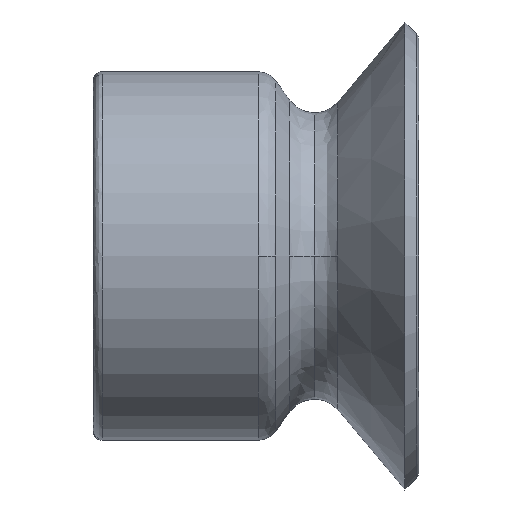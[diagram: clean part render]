
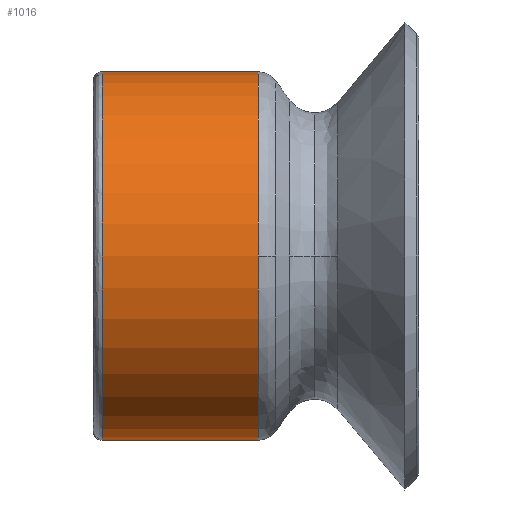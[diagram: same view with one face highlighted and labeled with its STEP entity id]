
A CAD part, left-side view. The second image highlights one B-rep face of the part: STEP entity #1016.
In plain terms, the highlighted cylindrical face has radius 4.25 mm (diameter 8.5 mm), a partial arc.
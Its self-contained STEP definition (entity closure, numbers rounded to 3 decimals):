
#33 = DIRECTION ( 'NONE',  ( 0., -1., 0. ) ) ;
#38 = ORIENTED_EDGE ( 'NONE', *, *, #59, .F. ) ;
#43 = DIRECTION ( 'NONE',  ( 0., 0., 1. ) ) ;
#59 = EDGE_CURVE ( 'NONE', #1117, #1310, #78, .T. ) ;
#78 = CIRCLE ( 'NONE', #226, 4.25 ) ;
#86 = DIRECTION ( 'NONE',  ( 0., 1., 0. ) ) ;
#96 = CARTESIAN_POINT ( 'NONE',  ( 0., -3.8, 0. ) ) ;
#124 = LINE ( 'NONE', #1341, #739 ) ;
#139 = ORIENTED_EDGE ( 'NONE', *, *, #547, .F. ) ;
#226 = AXIS2_PLACEMENT_3D ( 'NONE', #1108, #1465, #1466 ) ;
#241 = CARTESIAN_POINT ( 'NONE',  ( 0., -3.8, 0. ) ) ;
#259 = CYLINDRICAL_SURFACE ( 'NONE', #693, 4.25 ) ;
#293 = LINE ( 'NONE', #1541, #634 ) ;
#383 = CARTESIAN_POINT ( 'NONE',  ( 0., -3.8, 0. ) ) ;
#441 = CIRCLE ( 'NONE', #1069, 4.25 ) ;
#477 = EDGE_CURVE ( 'NONE', #650, #1310, #124, .T. ) ;
#547 = EDGE_CURVE ( 'NONE', #650, #1481, #441, .T. ) ;
#558 = EDGE_CURVE ( 'NONE', #1481, #1155, #778, .T. ) ;
#634 = VECTOR ( 'NONE', #792, 1000. ) ;
#649 = ORIENTED_EDGE ( 'NONE', *, *, #1361, .F. ) ;
#650 = VERTEX_POINT ( 'NONE', #1449 ) ;
#693 = AXIS2_PLACEMENT_3D ( 'NONE', #383, #86, #43 ) ;
#739 = VECTOR ( 'NONE', #754, 1000. ) ;
#754 = DIRECTION ( 'NONE',  ( 0., 1., 0. ) ) ;
#778 = CIRCLE ( 'NONE', #1018, 4.25 ) ;
#792 = DIRECTION ( 'NONE',  ( 0., 1., 0. ) ) ;
#886 = CARTESIAN_POINT ( 'NONE',  ( 0., -3.8, -4.25 ) ) ;
#905 = CARTESIAN_POINT ( 'NONE',  ( 0., -0.2, 4.25 ) ) ;
#913 = EDGE_LOOP ( 'NONE', ( #649, #989, #139, #1266, #38 ) ) ;
#989 = ORIENTED_EDGE ( 'NONE', *, *, #558, .F. ) ;
#1016 = ADVANCED_FACE ( 'NONE', ( #1177 ), #259, .T. ) ;
#1018 = AXIS2_PLACEMENT_3D ( 'NONE', #96, #33, #1299 ) ;
#1069 = AXIS2_PLACEMENT_3D ( 'NONE', #241, #1279, #1586 ) ;
#1108 = CARTESIAN_POINT ( 'NONE',  ( 0., -0.2, 0. ) ) ;
#1117 = VERTEX_POINT ( 'NONE', #1276 ) ;
#1155 = VERTEX_POINT ( 'NONE', #886 ) ;
#1177 = FACE_OUTER_BOUND ( 'NONE', #913, .T. ) ;
#1266 = ORIENTED_EDGE ( 'NONE', *, *, #477, .T. ) ;
#1276 = CARTESIAN_POINT ( 'NONE',  ( 0., -0.2, -4.25 ) ) ;
#1279 = DIRECTION ( 'NONE',  ( 0., -1., 0. ) ) ;
#1299 = DIRECTION ( 'NONE',  ( -1., 0., 0. ) ) ;
#1310 = VERTEX_POINT ( 'NONE', #905 ) ;
#1341 = CARTESIAN_POINT ( 'NONE',  ( 0., -3.8, 4.25 ) ) ;
#1361 = EDGE_CURVE ( 'NONE', #1155, #1117, #293, .T. ) ;
#1449 = CARTESIAN_POINT ( 'NONE',  ( 0., -3.8, 4.25 ) ) ;
#1465 = DIRECTION ( 'NONE',  ( 0., 1., 0. ) ) ;
#1466 = DIRECTION ( 'NONE',  ( -1., 0., 0. ) ) ;
#1477 = CARTESIAN_POINT ( 'NONE',  ( -4.25, -3.8, 0. ) ) ;
#1481 = VERTEX_POINT ( 'NONE', #1477 ) ;
#1541 = CARTESIAN_POINT ( 'NONE',  ( 0., -3.8, -4.25 ) ) ;
#1586 = DIRECTION ( 'NONE',  ( 0., 0., -1. ) ) ;
